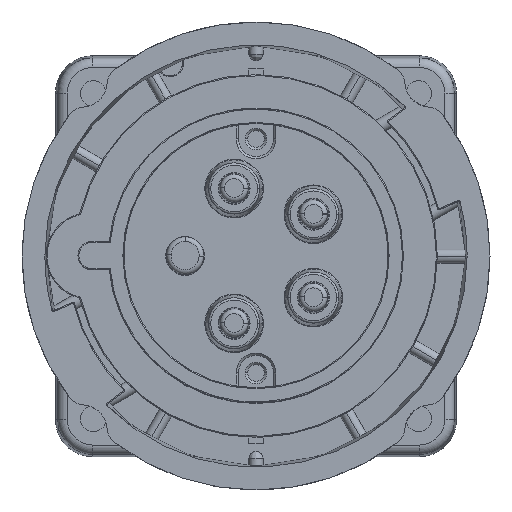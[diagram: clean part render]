
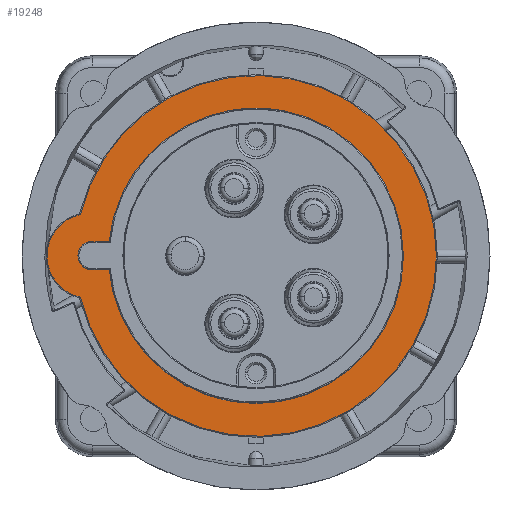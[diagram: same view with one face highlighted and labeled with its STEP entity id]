
A CAD part, top view. The second image highlights one B-rep face of the part: STEP entity #19248.
In plain terms, the highlighted planar face has unit normal (0, 0, 1).
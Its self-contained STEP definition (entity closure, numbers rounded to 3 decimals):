
#5 = ORIENTED_EDGE ( 'NONE', *, *, #4857, .T. ) ;
#739 = CIRCLE ( 'NONE', #14051, 38.55 ) ;
#1100 = ORIENTED_EDGE ( 'NONE', *, *, #19445, .T. ) ;
#1225 = CARTESIAN_POINT ( 'NONE',  ( -37.525, 991.168, 41.1 ) ) ;
#1267 = CARTESIAN_POINT ( 'NONE',  ( -31.55, 997.7, 41.1 ) ) ;
#1471 = PLANE ( 'NONE',  #23162 ) ;
#1885 = DIRECTION ( 'NONE',  ( -1., 0., 0. ) ) ;
#2853 = AXIS2_PLACEMENT_3D ( 'NONE', #13698, #17853, #5247 ) ;
#3112 = CARTESIAN_POINT ( 'NONE',  ( -30.678, 1002.3, 41.1 ) ) ;
#4756 = VERTEX_POINT ( 'NONE', #1225 ) ;
#4857 = EDGE_CURVE ( 'NONE', #12634, #16074, #24903, .T. ) ;
#5247 = DIRECTION ( 'NONE',  ( -1., 0., 0. ) ) ;
#5848 = AXIS2_PLACEMENT_3D ( 'NONE', #20236, #25649, #1885 ) ;
#5966 = ORIENTED_EDGE ( 'NONE', *, *, #20342, .T. ) ;
#6322 = CARTESIAN_POINT ( 'NONE',  ( -33.85, 1000., 41.1 ) ) ;
#6494 = VERTEX_POINT ( 'NONE', #6580 ) ;
#6580 = CARTESIAN_POINT ( 'NONE',  ( -30.864, 1002.3, 41.1 ) ) ;
#8754 = EDGE_CURVE ( 'NONE', #6494, #12156, #23272, .T. ) ;
#9063 = ORIENTED_EDGE ( 'NONE', *, *, #19290, .T. ) ;
#9640 = DIRECTION ( 'NONE',  ( 0., 0., 1. ) ) ;
#9757 = DIRECTION ( 'NONE',  ( -1., 0., 0. ) ) ;
#9775 = ORIENTED_EDGE ( 'NONE', *, *, #15899, .T. ) ;
#9890 = LINE ( 'NONE', #1267, #19152 ) ;
#10167 = ORIENTED_EDGE ( 'NONE', *, *, #14207, .T. ) ;
#10288 = DIRECTION ( 'NONE',  ( -1., 0., 0. ) ) ;
#10419 = CARTESIAN_POINT ( 'NONE',  ( 0., 1000., 41.1 ) ) ;
#11214 = DIRECTION ( 'NONE',  ( 0., 0., 1. ) ) ;
#12156 = VERTEX_POINT ( 'NONE', #17233 ) ;
#12282 = CIRCLE ( 'NONE', #14057, 9.037 ) ;
#12294 = CARTESIAN_POINT ( 'NONE',  ( -17.807, 1000., 41.1 ) ) ;
#12460 = VERTEX_POINT ( 'NONE', #13419 ) ;
#12634 = VERTEX_POINT ( 'NONE', #6322 ) ;
#13419 = CARTESIAN_POINT ( 'NONE',  ( -37.525, 1008.832, 41.1 ) ) ;
#13485 = EDGE_CURVE ( 'NONE', #4756, #12460, #739, .T. ) ;
#13698 = CARTESIAN_POINT ( 'NONE',  ( 0., 1000., 41.1 ) ) ;
#13744 = VERTEX_POINT ( 'NONE', #21804 ) ;
#14051 = AXIS2_PLACEMENT_3D ( 'NONE', #10419, #27091, #10288 ) ;
#14057 = AXIS2_PLACEMENT_3D ( 'NONE', #24899, #9640, #18081 ) ;
#14114 = DIRECTION ( 'NONE',  ( 0., 0., -1. ) ) ;
#14207 = EDGE_CURVE ( 'NONE', #13744, #4756, #21489, .T. ) ;
#14273 = ORIENTED_EDGE ( 'NONE', *, *, #13485, .T. ) ;
#15134 = VECTOR ( 'NONE', #24122, 1000. ) ;
#15827 = CARTESIAN_POINT ( 'NONE',  ( -31.55, 1000., 41.1 ) ) ;
#15899 = EDGE_CURVE ( 'NONE', #12460, #13744, #12282, .T. ) ;
#16074 = VERTEX_POINT ( 'NONE', #21698 ) ;
#16331 = FACE_BOUND ( 'NONE', #27130, .T. ) ;
#16420 = CARTESIAN_POINT ( 'NONE',  ( -31.55, 997.7, 41.1 ) ) ;
#16922 = AXIS2_PLACEMENT_3D ( 'NONE', #15827, #18162, #18030 ) ;
#17068 = AXIS2_PLACEMENT_3D ( 'NONE', #19555, #11214, #17592 ) ;
#17233 = CARTESIAN_POINT ( 'NONE',  ( -30.864, 997.7, 41.1 ) ) ;
#17592 = DIRECTION ( 'NONE',  ( -1., 0., 0. ) ) ;
#17700 = LINE ( 'NONE', #3112, #15134 ) ;
#17853 = DIRECTION ( 'NONE',  ( 0., 0., -1. ) ) ;
#18030 = DIRECTION ( 'NONE',  ( -1., 0., 0. ) ) ;
#18081 = DIRECTION ( 'NONE',  ( -1., 0., 0. ) ) ;
#18162 = DIRECTION ( 'NONE',  ( 0., 0., -1. ) ) ;
#19152 = VECTOR ( 'NONE', #9757, 1000. ) ;
#19248 = ADVANCED_FACE ( 'NONE', ( #26898, #16331 ), #1471, .F. ) ;
#19290 = EDGE_CURVE ( 'NONE', #26371, #12634, #26701, .T. ) ;
#19445 = EDGE_CURVE ( 'NONE', #12156, #26371, #9890, .T. ) ;
#19555 = CARTESIAN_POINT ( 'NONE',  ( -35.613, 1000., 41.1 ) ) ;
#20236 = CARTESIAN_POINT ( 'NONE',  ( -31.55, 1000., 41.1 ) ) ;
#20342 = EDGE_CURVE ( 'NONE', #16074, #6494, #17700, .T. ) ;
#20602 = EDGE_LOOP ( 'NONE', ( #14273, #9775, #10167 ) ) ;
#20836 = ORIENTED_EDGE ( 'NONE', *, *, #8754, .T. ) ;
#21489 = CIRCLE ( 'NONE', #17068, 9.037 ) ;
#21698 = CARTESIAN_POINT ( 'NONE',  ( -31.55, 1002.3, 41.1 ) ) ;
#21804 = CARTESIAN_POINT ( 'NONE',  ( -44.65, 1000., 41.1 ) ) ;
#23162 = AXIS2_PLACEMENT_3D ( 'NONE', #12294, #14114, #26623 ) ;
#23272 = CIRCLE ( 'NONE', #2853, 30.95 ) ;
#24122 = DIRECTION ( 'NONE',  ( 1., 0., 0. ) ) ;
#24899 = CARTESIAN_POINT ( 'NONE',  ( -35.613, 1000., 41.1 ) ) ;
#24903 = CIRCLE ( 'NONE', #16922, 2.3 ) ;
#25649 = DIRECTION ( 'NONE',  ( 0., 0., -1. ) ) ;
#26371 = VERTEX_POINT ( 'NONE', #16420 ) ;
#26623 = DIRECTION ( 'NONE',  ( 0., -1., 0. ) ) ;
#26701 = CIRCLE ( 'NONE', #5848, 2.3 ) ;
#26898 = FACE_OUTER_BOUND ( 'NONE', #20602, .T. ) ;
#27091 = DIRECTION ( 'NONE',  ( 0., 0., 1. ) ) ;
#27130 = EDGE_LOOP ( 'NONE', ( #1100, #9063, #5, #5966, #20836 ) ) ;
